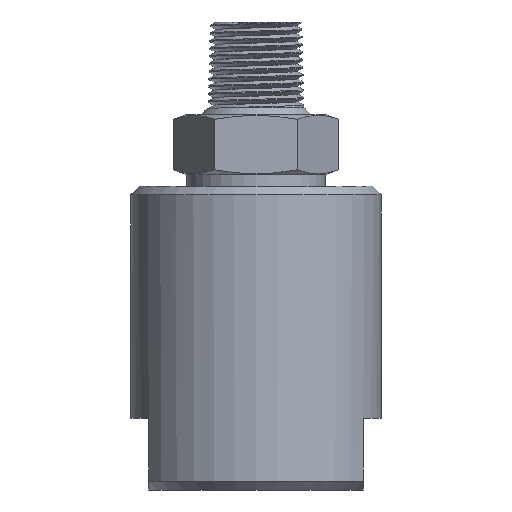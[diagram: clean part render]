
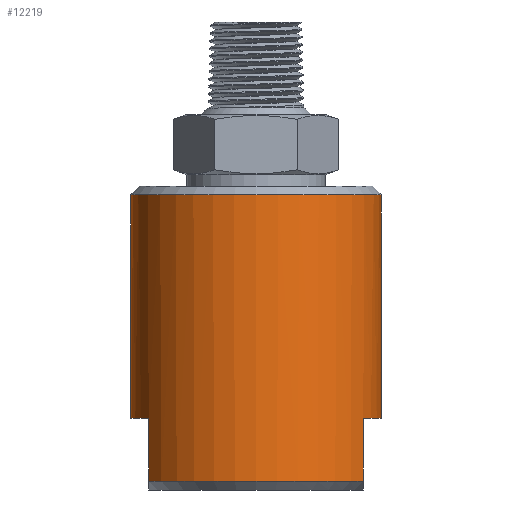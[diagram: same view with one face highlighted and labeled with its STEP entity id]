
A CAD part, left-side view. The second image highlights one B-rep face of the part: STEP entity #12219.
In plain terms, the highlighted cylindrical face has radius 22.225 mm (diameter 44.45 mm), a partial arc.
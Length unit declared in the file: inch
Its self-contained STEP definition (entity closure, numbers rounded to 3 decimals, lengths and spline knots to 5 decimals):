
#1457 = CARTESIAN_POINT ( 'NONE',  ( -0.0041, -0.875, -2.0925 ) ) ;
#1459 = CARTESIAN_POINT ( 'NONE',  ( -0.00812, -0.87497, -2.09169 ) ) ;
#1505 = CARTESIAN_POINT ( 'NONE',  ( 0., -0.875, -2.0925 ) ) ;
#1507 = CARTESIAN_POINT ( 'NONE',  ( -0.01563, -0.87487, -2.08858 ) ) ;
#1508 = CARTESIAN_POINT ( 'NONE',  ( -0.01906, -0.8748, -2.08628 ) ) ;
#1509 = CARTESIAN_POINT ( 'NONE',  ( -0.02764, -0.87458, -2.0777 ) ) ;
#1510 = CARTESIAN_POINT ( 'NONE',  ( -0.031, -0.87445, -2.0696 ) ) ;
#1511 = CARTESIAN_POINT ( 'NONE',  ( -0.031, -0.87445, -2.05747 ) ) ;
#1512 = CARTESIAN_POINT ( 'NONE',  ( -0.0302, -0.87448, -2.0534 ) ) ;
#1513 = CARTESIAN_POINT ( 'NONE',  ( -0.02709, -0.87458, -2.0459 ) ) ;
#1514 = CARTESIAN_POINT ( 'NONE',  ( -0.02482, -0.87465, -2.04248 ) ) ;
#1515 = CARTESIAN_POINT ( 'NONE',  ( -0.01903, -0.8748, -2.03669 ) ) ;
#1516 = CARTESIAN_POINT ( 'NONE',  ( -0.01562, -0.87487, -2.03442 ) ) ;
#1517 = CARTESIAN_POINT ( 'NONE',  ( -0.0081, -0.87497, -2.0313 ) ) ;
#1518 = CARTESIAN_POINT ( 'NONE',  ( -0.00405, -0.875, -2.0305 ) ) ;
#1519 = CARTESIAN_POINT ( 'NONE',  ( 0., -0.875, -2.0305 ) ) ;
#3412 = ORIENTED_EDGE ( 'NONE', *, *, #6826, .F. ) ;
#3413 = ORIENTED_EDGE ( 'NONE', *, *, #11709, .F. ) ;
#3414 = ORIENTED_EDGE ( 'NONE', *, *, #11708, .T. ) ;
#3415 = ORIENTED_EDGE ( 'NONE', *, *, #11770, .T. ) ;
#3416 = ORIENTED_EDGE ( 'NONE', *, *, #11707, .F. ) ;
#3417 = ORIENTED_EDGE ( 'NONE', *, *, #11706, .F. ) ;
#3418 = ORIENTED_EDGE ( 'NONE', *, *, #6761, .T. ) ;
#3419 = ORIENTED_EDGE ( 'NONE', *, *, #6772, .T. ) ;
#3420 = ORIENTED_EDGE ( 'NONE', *, *, #6756, .T. ) ;
#3421 = ORIENTED_EDGE ( 'NONE', *, *, #11705, .T. ) ;
#5546 = LINE ( 'NONE', #5547, #10312 ) ;
#5547 = CARTESIAN_POINT ( 'NONE',  ( -0.45069, -0.75, -2.772 ) ) ;
#5548 = CARTESIAN_POINT ( 'NONE',  ( 0., 0., -1.209 ) ) ;
#5549 = DIRECTION ( 'NONE',  ( 0., 0., -1. ) ) ;
#5550 = DIRECTION ( 'NONE',  ( 0., 1., 0. ) ) ;
#5553 = CARTESIAN_POINT ( 'NONE',  ( 0., 0., -2.772 ) ) ;
#5554 = DIRECTION ( 'NONE',  ( 0., 0., -1. ) ) ;
#5555 = DIRECTION ( 'NONE',  ( 1., 0., 0. ) ) ;
#5556 = DIRECTION ( 'NONE',  ( 0., 0., -1. ) ) ;
#5557 = LINE ( 'NONE', #5558, #10314 ) ;
#5558 = CARTESIAN_POINT ( 'NONE',  ( -0.45069, 0.75, -2.772 ) ) ;
#5559 = DIRECTION ( 'NONE',  ( 0., 0., -1. ) ) ;
#5560 = CARTESIAN_POINT ( 'NONE',  ( 0., 0., -2.772 ) ) ;
#5561 = DIRECTION ( 'NONE',  ( 0., 0., -1. ) ) ;
#5562 = DIRECTION ( 'NONE',  ( 1., 0., 0. ) ) ;
#6606 = VECTOR ( 'NONE', #9378, 39.37008 ) ;
#6636 = VECTOR ( 'NONE', #9340, 39.37008 ) ;
#6756 = EDGE_CURVE ( 'NONE', #10132, #10140, #9338, .T. ) ;
#6761 = EDGE_CURVE ( 'NONE', #10148, #10135, #9368, .T. ) ;
#6772 = EDGE_CURVE ( 'NONE', #10135, #10132, #10216, .T. ) ;
#6826 = EDGE_CURVE ( 'NONE', #10194, #10121, #7509, .T. ) ;
#7226 = CARTESIAN_POINT ( 'NONE',  ( 0., 0., -3.21 ) ) ;
#7227 = DIRECTION ( 'NONE',  ( 0., 0., 1. ) ) ;
#7228 = DIRECTION ( 'NONE',  ( 0., -1., 0. ) ) ;
#7297 = DIRECTION ( 'NONE',  ( 0., 0., 1. ) ) ;
#7312 = CYLINDRICAL_SURFACE ( 'NONE', #10396, 0.875 ) ;
#7313 = FACE_OUTER_BOUND ( 'NONE', #12047, .T. ) ;
#7314 = CARTESIAN_POINT ( 'NONE',  ( 0., 0., -1.16266 ) ) ;
#7316 = DIRECTION ( 'NONE',  ( 0., -1., 0. ) ) ;
#7508 = CARTESIAN_POINT ( 'NONE',  ( 0., 0.875, -1.16266 ) ) ;
#7509 = LINE ( 'NONE', #7508, #12231 ) ;
#7515 = DIRECTION ( 'NONE',  ( 0., 0., 1. ) ) ;
#9338 = LINE ( 'NONE', #9339, #6636 ) ;
#9339 = CARTESIAN_POINT ( 'NONE',  ( 0., -0.875, -1.16266 ) ) ;
#9340 = DIRECTION ( 'NONE',  ( 0., 0., 1. ) ) ;
#9367 = CARTESIAN_POINT ( 'NONE',  ( 0., -0.875, -1.16266 ) ) ;
#9368 = LINE ( 'NONE', #9367, #6606 ) ;
#9378 = DIRECTION ( 'NONE',  ( 0., 0., 1. ) ) ;
#10072 = VERTEX_POINT ( 'NONE', #11190 ) ;
#10121 = VERTEX_POINT ( 'NONE', #11241 ) ;
#10126 = VERTEX_POINT ( 'NONE', #11246 ) ;
#10132 = VERTEX_POINT ( 'NONE', #11252 ) ;
#10135 = VERTEX_POINT ( 'NONE', #11255 ) ;
#10140 = VERTEX_POINT ( 'NONE', #11260 ) ;
#10148 = VERTEX_POINT ( 'NONE', #11268 ) ;
#10173 = VERTEX_POINT ( 'NONE', #11293 ) ;
#10194 = VERTEX_POINT ( 'NONE', #11314 ) ;
#10206 = VERTEX_POINT ( 'NONE', #11326 ) ;
#10216 = B_SPLINE_CURVE_WITH_KNOTS ( 'NONE', 3,
 ( #1505, #1457, #1459, #1507, #1508, #1509, #1510, #1511, #1512, #1513, #1514, #1515, #1516, #1517, #1518, #1519 ),
 .UNSPECIFIED., .F., .F.,
 ( 4, 2, 2, 2, 2, 2, 2, 4 ),
 ( 0., 0.00031, 0.00062, 0.00123, 0.00154, 0.00185, 0.00215, 0.00246 ),
 .UNSPECIFIED. ) ;
#10308 = CIRCLE ( 'NONE', #10311, 0.875 ) ;
#10310 = CIRCLE ( 'NONE', #10313, 0.875 ) ;
#10311 = AXIS2_PLACEMENT_3D ( 'NONE', #5548, #5549, #5550 ) ;
#10312 = VECTOR ( 'NONE', #5556, 39.37008 ) ;
#10313 = AXIS2_PLACEMENT_3D ( 'NONE', #5553, #5554, #5555 ) ;
#10314 = VECTOR ( 'NONE', #5559, 39.37008 ) ;
#10315 = CIRCLE ( 'NONE', #10317, 0.875 ) ;
#10317 = AXIS2_PLACEMENT_3D ( 'NONE', #5560, #5561, #5562 ) ;
#10357 = CIRCLE ( 'NONE', #10359, 0.875 ) ;
#10359 = AXIS2_PLACEMENT_3D ( 'NONE', #7226, #7227, #7228 ) ;
#10396 = AXIS2_PLACEMENT_3D ( 'NONE', #7314, #7297, #7316 ) ;
#11190 = CARTESIAN_POINT ( 'NONE',  ( -0.45069, -0.75, -2.772 ) ) ;
#11241 = CARTESIAN_POINT ( 'NONE',  ( 0., 0.875, -1.209 ) ) ;
#11246 = CARTESIAN_POINT ( 'NONE',  ( -0.45069, 0.75, -2.772 ) ) ;
#11252 = CARTESIAN_POINT ( 'NONE',  ( 0., -0.875, -2.0305 ) ) ;
#11255 = CARTESIAN_POINT ( 'NONE',  ( 0., -0.875, -2.0925 ) ) ;
#11260 = CARTESIAN_POINT ( 'NONE',  ( 0., -0.875, -1.209 ) ) ;
#11268 = CARTESIAN_POINT ( 'NONE',  ( 0., -0.875, -2.772 ) ) ;
#11293 = CARTESIAN_POINT ( 'NONE',  ( -0.45069, -0.75, -3.21 ) ) ;
#11314 = CARTESIAN_POINT ( 'NONE',  ( 0., 0.875, -2.772 ) ) ;
#11326 = CARTESIAN_POINT ( 'NONE',  ( -0.45069, 0.75, -3.21 ) ) ;
#11705 = EDGE_CURVE ( 'NONE', #10140, #10121, #10308, .T. ) ;
#11706 = EDGE_CURVE ( 'NONE', #10148, #10072, #10310, .T. ) ;
#11707 = EDGE_CURVE ( 'NONE', #10072, #10173, #5546, .T. ) ;
#11708 = EDGE_CURVE ( 'NONE', #10126, #10206, #5557, .T. ) ;
#11709 = EDGE_CURVE ( 'NONE', #10126, #10194, #10315, .T. ) ;
#11770 = EDGE_CURVE ( 'NONE', #10206, #10173, #10357, .T. ) ;
#12047 = EDGE_LOOP ( 'NONE', ( #3412, #3413, #3414, #3415, #3416, #3417, #3418, #3419, #3420, #3421 ) ) ;
#12219 = ADVANCED_FACE ( 'NONE', ( #7313 ), #7312, .T. ) ;
#12231 = VECTOR ( 'NONE', #7515, 39.37008 ) ;
